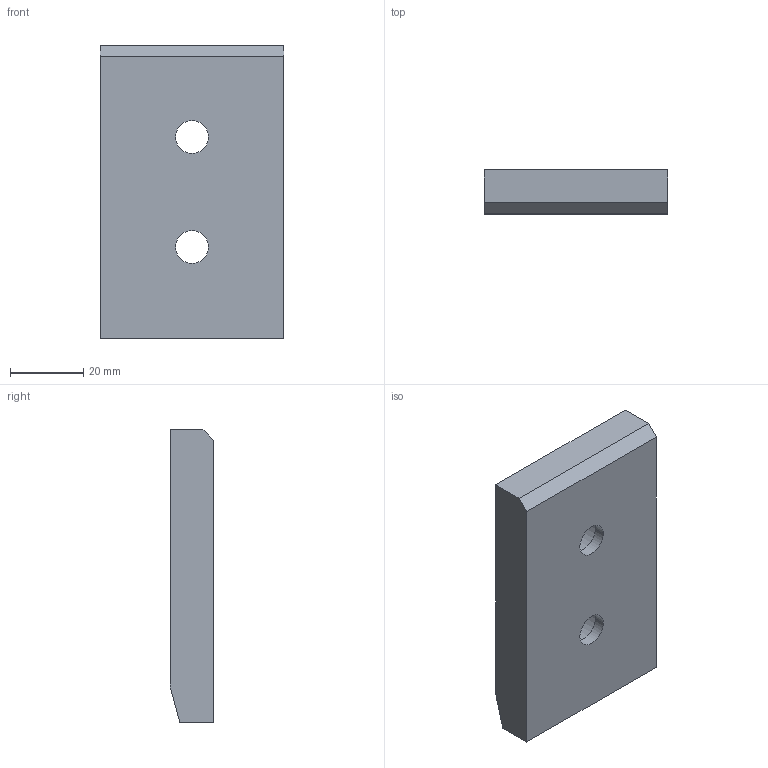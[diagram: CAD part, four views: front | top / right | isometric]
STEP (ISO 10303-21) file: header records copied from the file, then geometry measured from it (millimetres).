
FILE_DESCRIPTION (( 'STEP AP214' ), '1' );
FILE_NAME ('SW222-01-50x80.STEP', '2020-10-14T12:37:18', ( 'August' ), ( '' ), 'SwSTEP 2.0', 'SolidWorks 2018', '' );
FILE_SCHEMA (( 'AUTOMOTIVE_DESIGN' ));
Length unit declared in the file: millimetre
Products named in the file (1): SW222-01-50x80
Bounding box: 50 x 12 x 80 mm (x, y, z)
Volume: 38338.4 mm3; surface area: 15076.8 mm2
Topology: 1 solids, 1 shells, 104 faces, 215 edges, 142 vertices
Faces by surface type: cylinder 63, plane 37, cone 4
Entity records: 3112 total; most frequent: DIRECTION 555, CARTESIAN_POINT 462, ORIENTED_EDGE 430, AXIS2_PLACEMENT_3D 235, EDGE_CURVE 215, VERTEX_POINT 142, EDGE_LOOP 137, CIRCLE 130
